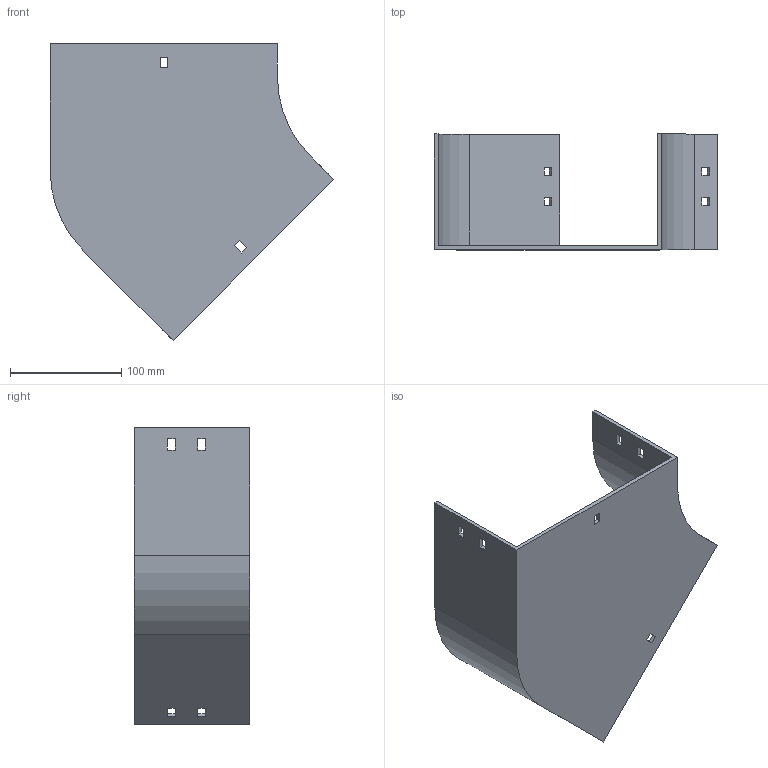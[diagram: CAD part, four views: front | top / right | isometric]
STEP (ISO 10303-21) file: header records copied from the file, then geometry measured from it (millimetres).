
FILE_DESCRIPTION (( 'STEP AP214' ), '1' );
FILE_NAME ('11F1D200.step', '2025-02-21T12:55:02', ( '' ), ( '' ), 'SwSTEP 2.0', 'SolidWorks 2023', '' );
FILE_SCHEMA (( 'AUTOMOTIVE_DESIGN' ));
Length unit declared in the file: millimetre
Products named in the file (1): 11F1D200
Bounding box: 254.5 x 104 x 266.17 mm (x, y, z)
Volume: 316861.1 mm3; surface area: 186628.8 mm2
Topology: 1 solids, 1 shells, 58 faces, 168 edges, 112 vertices
Faces by surface type: plane 54, cylinder 4
Entity records: 1943 total; most frequent: CARTESIAN_POINT 339, ORIENTED_EDGE 336, DIRECTION 294, EDGE_CURVE 168, LINE 160, VECTOR 160, VERTEX_POINT 112, EDGE_LOOP 78
